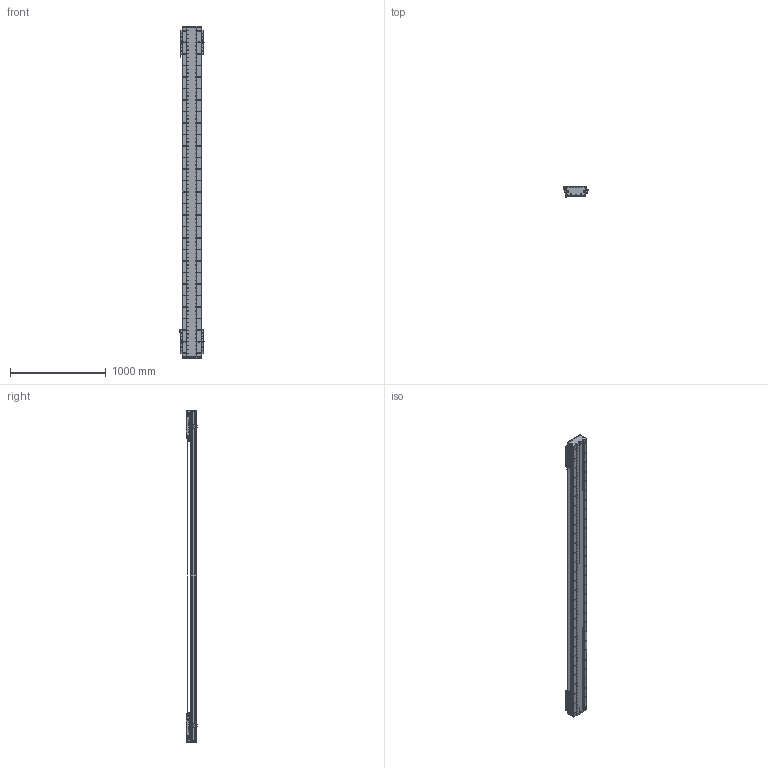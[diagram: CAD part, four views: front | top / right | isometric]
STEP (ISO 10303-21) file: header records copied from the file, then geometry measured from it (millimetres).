
FILE_DESCRIPTION (( 'STEP AP203' ), '1' );
FILE_NAME ('DA-C195-2-C3-T2840-C010-0.2 眻盄萇儂.STEP', '2025-08-15T00:52:38', ( '' ), ( '' ), 'SwSTEP 2.0', 'SolidWorks 2019', '' );
FILE_SCHEMA (( 'CONFIG_CONTROL_DESIGN' ));
Length unit declared in the file: millimetre
Products named in the file (19): DA195詩湍嶺輸; 葩璃 DA95-GT-T-00; MS200 棠掑喜S315-T240; IU-CU195-L-00 菁釱(L3420); DKW-GYP-ZJ-00 笢潔嫖萇覜茼え; DA165-GYP-00 光电感应片(默认); DA195詩湍菜輸; CU195-C3賑輸-俋楷; DA95-HXJ-00 遣喳砎蝶; DA195詩湍裔啣; PM-T45ㄗ侂狟ㄘ; DA195詩湍郪璃; IU-CU195-L 菁釱絳寢; LMT黍杅芛; DA-C195-2-C3-T2840-C010-0.2 眻盄萇儂; DKW-KGZ-ZJ-00 中间光电开关支架; DA-C195-GD-DB-H-00 傷啣; PM-Y65嫖萇羲壽郪璃; DKW168-HXJ-ZJ-00 笢潔滅袉砎蝶
Assembly tree (37 placements, depth 3):
  DA-C195-2-C3-T2840-C010-0.2 眻盄萇儂
    DA195詩湍郪璃
      DA195詩湍菜輸  x2
      DA195詩湍裔啣
      DA195詩湍嶺輸  x2
      DA95-HXJ-00 遣喳砎蝶  x8
      DA-C195-GD-DB-H-00 傷啣  x2
    IU-CU195-L 菁釱絳寢
      IU-CU195-L-00 菁釱(L3420)
      葩璃 DA95-GT-T-00  x4
    LMT黍杅芛  x2
    MS200 棠掑喜S315-T240
    PM-T45ㄗ侂狟ㄘ  x4
    DA165-GYP-00 光电感应片(默认)  x2
    PM-Y65嫖萇羲壽郪璃
    DKW168-HXJ-ZJ-00 笢潔滅袉砎蝶
    DKW-GYP-ZJ-00 笢潔嫖萇覜茼え
    DKW-KGZ-ZJ-00 中间光电开关支架
    CU195-C3賑輸-俋楷  x2
Bounding box: 258.2 x 115.45 x 3460 mm (x, y, z)
Volume: 21247573.9 mm3; surface area: 6183090.6 mm2
Topology: 154 solids, 218 shells, 7251 faces, 19815 edges, 12405 vertices
Faces by surface type: cylinder 3634, plane 2565, cone 884, torus 88, sphere 72, bspline 8
Entity records: 168477 total; most frequent: CARTESIAN_POINT 47441, ORIENTED_EDGE 25646, DIRECTION 23904, EDGE_CURVE 12823, AXIS2_PLACEMENT_3D 8833, VERTEX_POINT 8330, VECTOR 6238, LINE 6238
